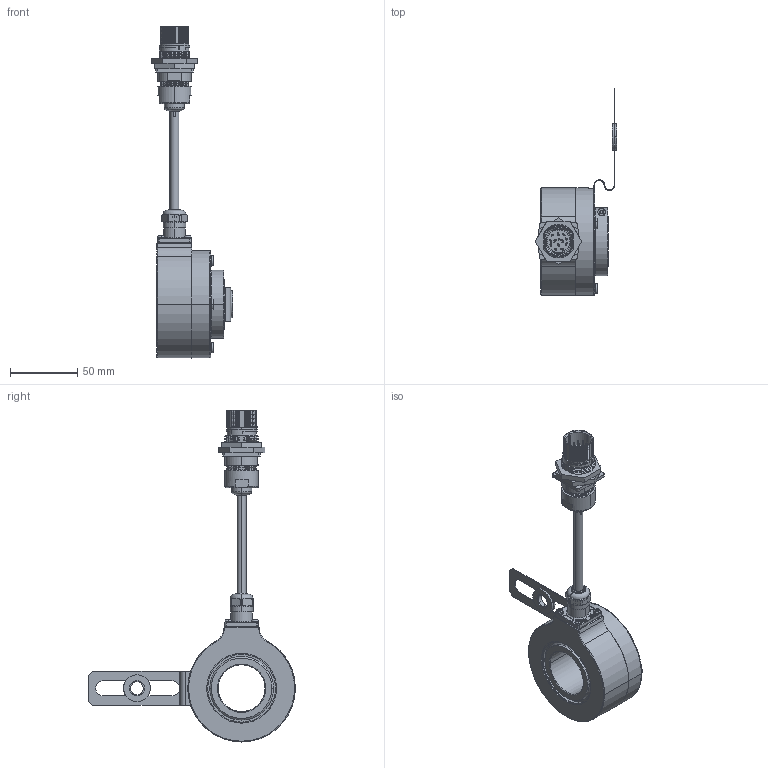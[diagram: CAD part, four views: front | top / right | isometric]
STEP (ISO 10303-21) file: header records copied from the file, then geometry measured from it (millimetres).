
FILE_DESCRIPTION (( 'STEP AP203' ), '1' );
FILE_NAME ('K80I.OXX.XXXXX.XH1D835.6XR14.XXXX.step', '2025-12-09T09:03:41', ( '' ), ( '' ), 'SwSTEP 2.0', 'SolidWorks 2021', '' );
FILE_SCHEMA (( 'CONFIG_CONTROL_DESIGN' ));
Length unit declared in the file: millimetre
Products named in the file (1): K80I.OXX.XXXXX.XH1D835.6XR14.XXXX
Bounding box: 60.82 x 154.07 x 247.43 mm (x, y, z)
Volume: 210967.6 mm3; surface area: 90768.1 mm2
Topology: 33 solids, 33 shells, 2010 faces, 5148 edges, 3291 vertices
Faces by surface type: cylinder 769, plane 619, cone 386, bspline 130, torus 64, sphere 42
Entity records: 69196 total; most frequent: CARTESIAN_POINT 21278, ORIENTED_EDGE 10232, DIRECTION 9821, EDGE_CURVE 5116, AXIS2_PLACEMENT_3D 3858, VERTEX_POINT 3291, EDGE_LOOP 2219, LINE 2105
